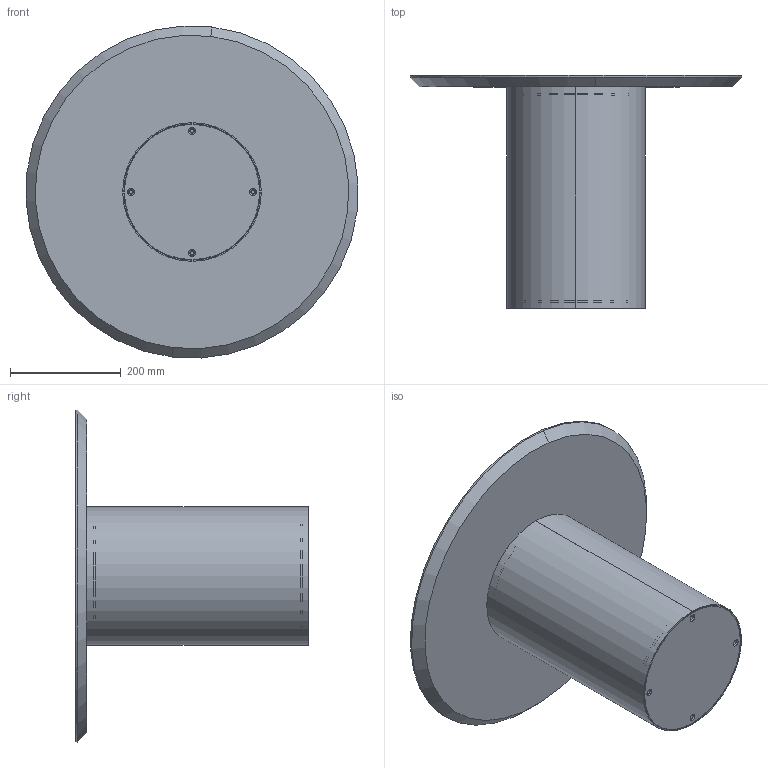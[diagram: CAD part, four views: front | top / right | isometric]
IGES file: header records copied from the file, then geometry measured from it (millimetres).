
Start section: SolidWorks IGES file using analytic representation for surfaces
Global section: file name: Y:\eforma\TECNICO\SOLIDWORKS\E-FORMA\2-TAVOLINI\CILINDRO LOW\02 parts\CL01W.IGS; native system: SolidWorks 2022; preprocessor: SolidWorks 2022; author: eforma.tech; date: 240806.120919; units: millimetre
Bounding box: 599.11 x 420 x 599.11 mm (x, y, z)
Volume: 6647188.8 mm3; surface area: 1410620.7 mm2
Topology: 8 solids, 8 shells, 122 faces, 292 edges, 182 vertices
Faces by surface type: revolution 92, plane 30
